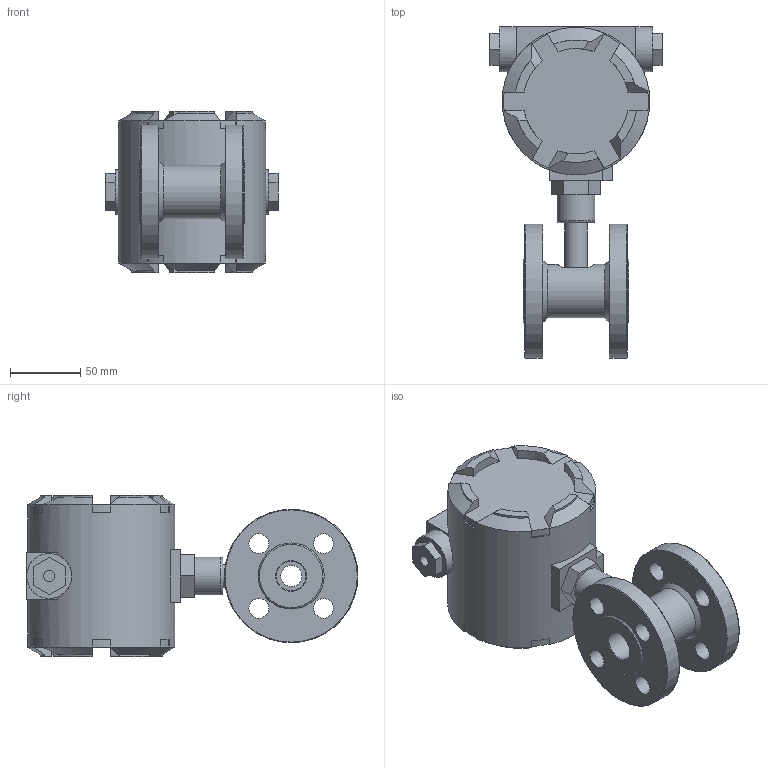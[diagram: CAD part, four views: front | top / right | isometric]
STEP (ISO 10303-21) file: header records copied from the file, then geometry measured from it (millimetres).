
FILE_DESCRIPTION( (''), '2;1');
FILE_NAME( 'QTKC_DN15_flange_Ex.step', '2026-07-14T16:04:34+08:00', (''), (''), '', '', '');
FILE_SCHEMA (('AP203_CONFIGURATION_CONTROLLED_3D_DESIGN_OF_MECHANICAL_PARTS_AND_ASSEMBLIES_MIM_LF { 1 0 10303 403 2 1 2}'));
Length unit declared in the file: millimetre
Products named in the file (1): QTKC DN15_flange_Ex
Bounding box: 122.4 x 236 x 115 mm (x, y, z)
Volume: 1150829.8 mm3; surface area: 124298.3 mm2
Topology: 4 solids, 4 shells, 1342 faces, 3667 edges, 2439 vertices
Faces by surface type: plane 726, extrusion 504, cylinder 78, cone 22, torus 10, bspline 2
Full cylindrical faces by diameter (mm): 3.3 x1, 8 x2, 14 x8, 15 x1, 16 x1, 17 x1, 18.5 x1, 20 x2, 21 x2, 27 x1, 32 x2, 38 x1, 68 x1, 95 x2, 105 x1
Entity records: 45686 total; most frequent: CARTESIAN_POINT 13666, ORIENTED_EDGE 7206, DIRECTION 4951, EDGE_CURVE 3603, VECTOR 2821, VERTEX_POINT 2420, LINE 2317, B_SPLINE_CURVE_WITH_KNOTS 1562
